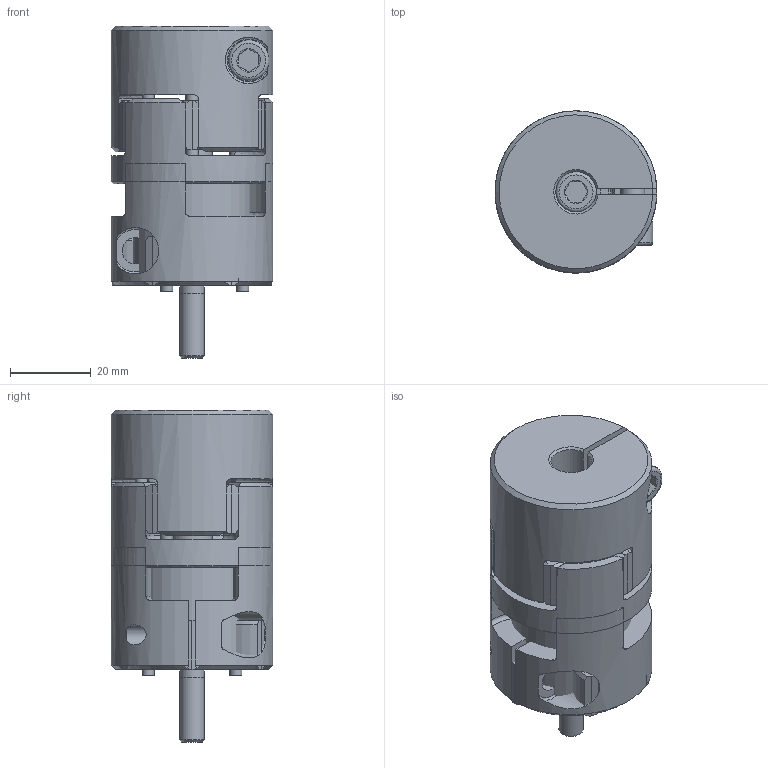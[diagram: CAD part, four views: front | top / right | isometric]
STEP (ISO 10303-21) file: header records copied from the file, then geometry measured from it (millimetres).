
FILE_DESCRIPTION( ( 'Unknown' ), '1' );
FILE_NAME( 'K:/Konstruktion/KBE Fertigungszeichnungen/KBE4/HP/KBE4-19.stp', 'Unknown', ( 'Unknown' ), ( 'Unknown' ), 'XStep 1.0', 'Unknown', ' ' );
FILE_SCHEMA( ( 'automotive_design' ) );
Length unit declared in the file: millimetre
Products named in the file (5): Assem1; KBE 2C - 19_Nabe; ISO EN DIN 4762 M6x18; Zahnkranz_19 - D16; KBE 4 - 19_Nabe-D
Bounding box: 40 x 40 x 82 mm (x, y, z)
Volume: 115426.6 mm3; surface area: 40257.8 mm2
Topology: 9 solids, 9 shells, 415 faces, 965 edges, 602 vertices
Faces by surface type: cone 131, plane 124, cylinder 120, torus 40
Full cylindrical faces by diameter (mm): 3 x12, 5 x5, 6 x6, 6.5 x4, 10 x3, 12 x2, 16 x2, 18 x4, 30 x2, 40 x2
Entity records: 6356 total; most frequent: CARTESIAN_POINT 1551, DIRECTION 929, ORIENTED_EDGE 856, EDGE_CURVE 428, AXIS2_PLACEMENT_3D 414, VERTEX_POINT 285, EDGE_LOOP 247, FACE_OUTER_BOUND 219
